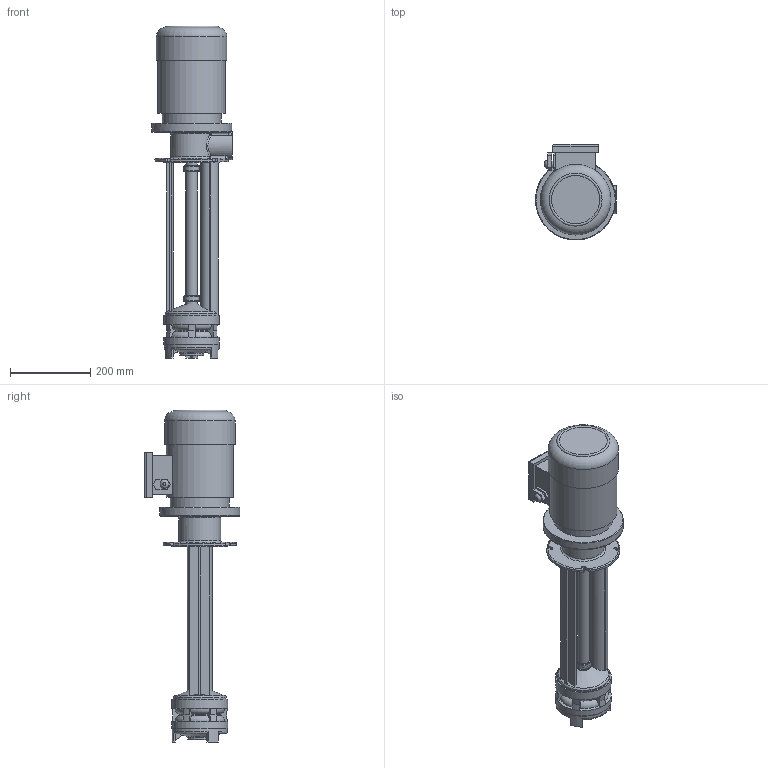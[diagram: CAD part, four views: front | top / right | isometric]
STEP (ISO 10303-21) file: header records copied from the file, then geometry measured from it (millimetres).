
FILE_DESCRIPTION(/* description */ ('Unknown'),/* implementation_level */ '2;1');
FILE_NAME(/* name */ 'gp2-490',/* time_stamp */ '2025-06-04T09:14:09+03:00',/* author */ ('Unknown'),/* organization */ ('Unknown'),/* preprocessor_version */ 'ST-DEVELOPER v16.7',/* originating_system */ 'DEX',/* authorisation */ $);
FILE_SCHEMA (('AUTOMOTIVE_DESIGN {1 0 10303 214 3 1 1}'));
Length unit declared in the file: millimetre
Products named in the file (1): gp2-490
Bounding box: 202 x 239 x 828.33 mm (x, y, z)
Volume: 10387846.4 mm3; surface area: 547597.5 mm2
Topology: 1 solids, 1 shells, 340 faces, 861 edges, 554 vertices
Faces by surface type: plane 122, bspline 84, cylinder 72, cone 33, torus 29
Full cylindrical faces by diameter (mm): 17 x1, 21.5 x1, 29 x3, 33 x2, 35 x2, 39 x2, 40.5 x2, 45 x1, 47 x1, 60 x1, 137 x1, 139 x2, 140 x1, 168.001 x1, 176 x1, 200 x1
Entity records: 12837 total; most frequent: CARTESIAN_POINT 5318, ORIENTED_EDGE 1608, DIRECTION 1359, EDGE_CURVE 804, VERTEX_POINT 546, AXIS2_PLACEMENT_3D 505, EDGE_LOOP 424, FACE_BOUND 424
